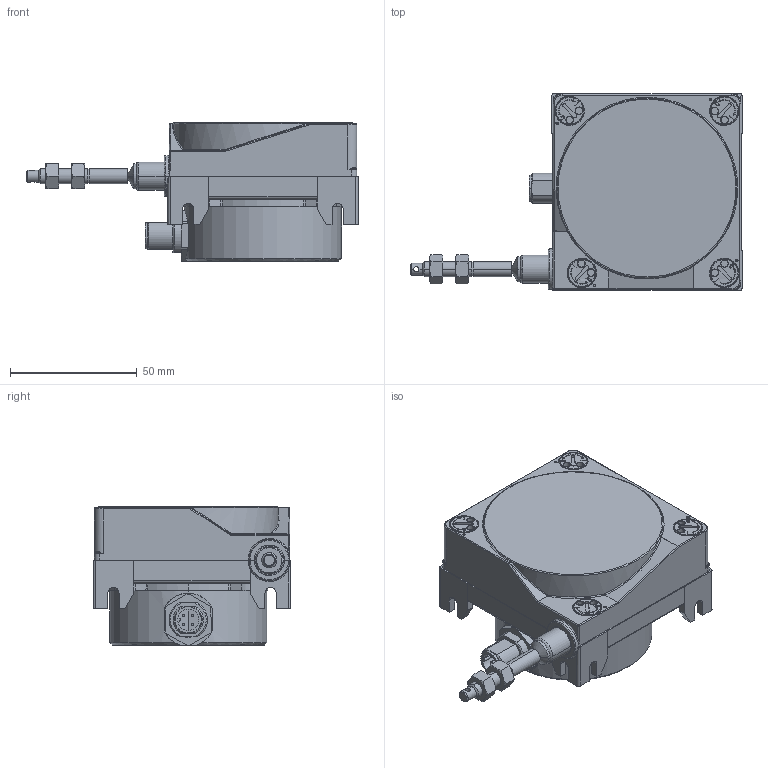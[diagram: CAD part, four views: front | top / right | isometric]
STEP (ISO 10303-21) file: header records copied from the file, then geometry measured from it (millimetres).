
FILE_DESCRIPTION (( 'STEP AP214' ), '1' );
FILE_NAME ('D8.3503.AXXX.0000.STEP', '2014-03-27T06:54:10', ( 'HeirlerN' ), ( 'Microsoft' ), 'SwSTEP 2.0', 'SolidWorks 2013', '' );
FILE_SCHEMA (( 'AUTOMOTIVE_DESIGN' ));
Length unit declared in the file: millimetre
Products named in the file (1): D8.3503.AXXX.0000
Bounding box: 131 x 78 x 54.84 mm (x, y, z)
Surface area: 32609.4 mm2 (no closed solid volume)
Topology: 0 solids, 28 shells, 739 faces, 2132 edges, 1391 vertices
Faces by surface type: plane 239, cylinder 230, bspline 180, cone 90
Entity records: 43167 total; most frequent: CARTESIAN_POINT 17340, ORIENTED_EDGE 3825, DIRECTION 3255, EDGE_CURVE 2099, VERTEX_POINT 1391, AXIS2_PLACEMENT_3D 1193, VECTOR 869, LINE 869
